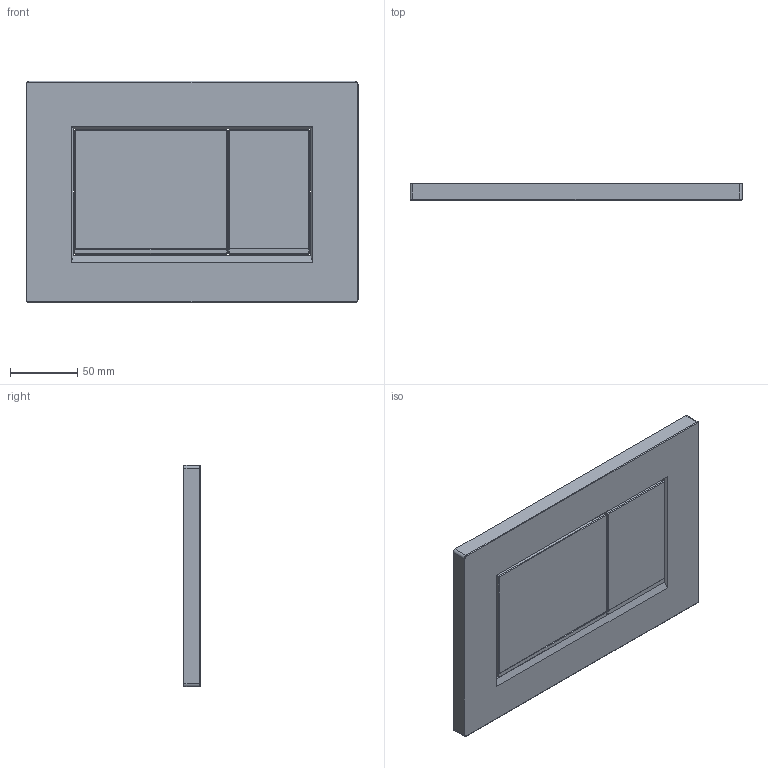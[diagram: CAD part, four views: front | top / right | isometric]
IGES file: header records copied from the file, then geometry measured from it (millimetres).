
Global section: file name: 115883; native system: Autodesk Inventor 2018; preprocessor: unknown; author: JANAN; date: 20211008.094207; units: millimetre
Bounding box: 246 x 12 x 164 mm (x, y, z)
Volume: 475076.7 mm3; surface area: 105510.4 mm2
Topology: 5 solids, 5 shells, 87 faces, 196 edges, 119 vertices
Faces by surface type: bspline 87
